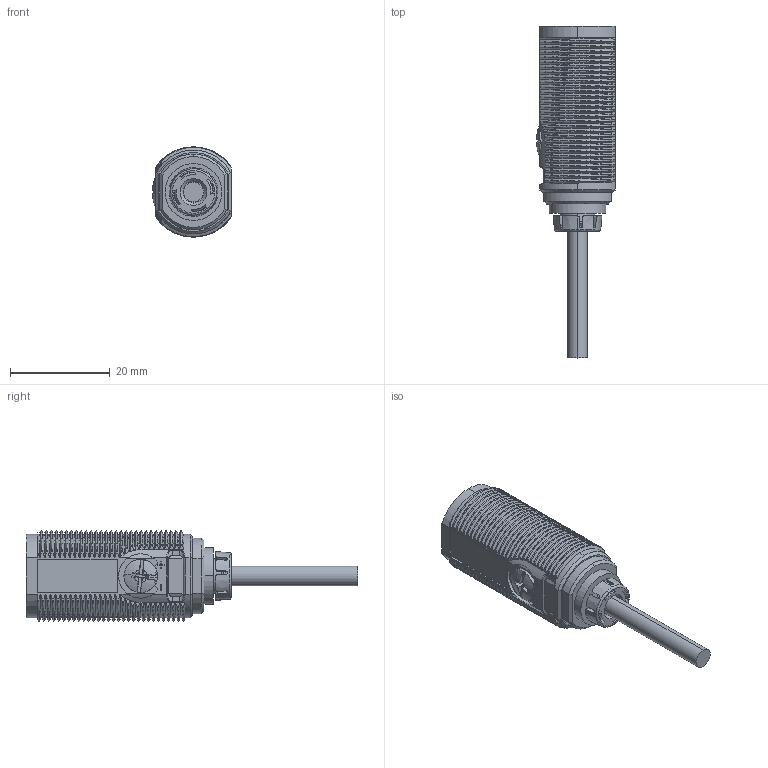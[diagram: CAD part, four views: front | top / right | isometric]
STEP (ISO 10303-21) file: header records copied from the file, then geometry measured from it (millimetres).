
FILE_DESCRIPTION (( 'STEP AP214' ), '1' );
FILE_NAME ('PM18v.STEP', '2025-09-25T08:27:40', ( 'Windows User' ), ( 'P R C' ), 'SwSTEP 2.0', 'SolidWorks 2023', '' );
FILE_SCHEMA (( 'AUTOMOTIVE_DESIGN' ));
Length unit declared in the file: millimetre
Products named in the file (1): PM18v
Bounding box: 15.71 x 66.6 x 18.07 mm (x, y, z)
Volume: 8504.9 mm3; surface area: 3961.8 mm2
Topology: 1 solids, 3 shells, 531 faces, 1539 edges, 1013 vertices
Faces by surface type: bspline 193, cylinder 160, plane 149, cone 29
Entity records: 63984 total; most frequent: CARTESIAN_POINT 52551, ORIENTED_EDGE 3078, DIRECTION 1549, EDGE_CURVE 1539, VERTEX_POINT 1013, EDGE_LOOP 546, B_SPLINE_CURVE_WITH_KNOTS 537, FACE_OUTER_BOUND 531
